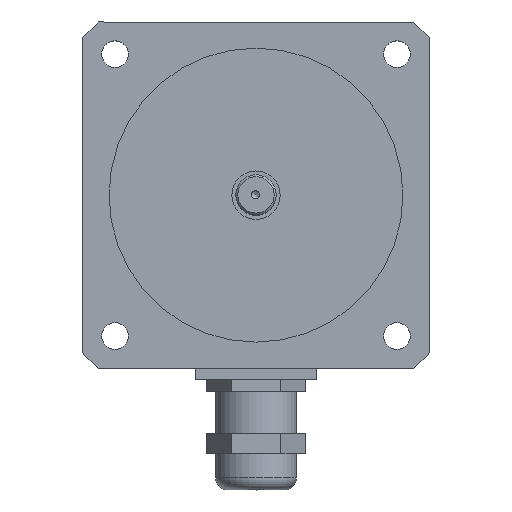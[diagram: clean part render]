
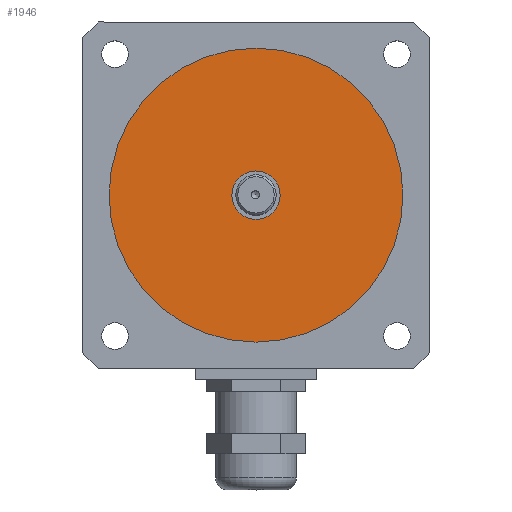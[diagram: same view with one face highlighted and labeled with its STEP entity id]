
A CAD part, top view. The second image highlights one B-rep face of the part: STEP entity #1946.
In plain terms, the highlighted planar face has unit normal (0, 0, 1).
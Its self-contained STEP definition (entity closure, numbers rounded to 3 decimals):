
#1904=CARTESIAN_POINT('',(169.033,142.287,6.997));
#1905=VERTEX_POINT('',#1904);
#1906=CARTESIAN_POINT('',(132.533,142.287,6.997));
#1907=DIRECTION('',(0.0,0.0,-1.0));
#1908=DIRECTION('',(-1.0,0.0,0.0));
#1909=AXIS2_PLACEMENT_3D('',#1906,#1907,#1908);
#1910=CIRCLE('',#1909,36.5);
#1911=EDGE_CURVE('',#1905,#1905,#1910,.T.);
#1927=CARTESIAN_POINT('',(132.533,142.287,6.997));
#1928=DIRECTION('',(0.0,0.0,-1.0));
#1929=DIRECTION('',(-1.0,0.0,0.0));
#1930=AXIS2_PLACEMENT_3D('',#1927,#1928,#1929);
#1931=PLANE('',#1930);
#1932=ORIENTED_EDGE('',*,*,#1911,.F.);
#1933=EDGE_LOOP('',(#1932));
#1934=FACE_OUTER_BOUND('',#1933,.T.);
#1935=CARTESIAN_POINT('',(138.534,142.287,6.997));
#1936=VERTEX_POINT('',#1935);
#1937=CARTESIAN_POINT('',(132.533,142.287,6.997));
#1938=DIRECTION('',(0.0,0.0,-1.0));
#1939=DIRECTION('',(-1.0,0.0,0.0));
#1940=AXIS2_PLACEMENT_3D('',#1937,#1938,#1939);
#1941=CIRCLE('',#1940,6.001);
#1942=EDGE_CURVE('',#1936,#1936,#1941,.T.);
#1943=ORIENTED_EDGE('',*,*,#1942,.T.);
#1944=EDGE_LOOP('',(#1943));
#1945=FACE_BOUND('',#1944,.T.);
#1946=ADVANCED_FACE('',(#1934,#1945),#1931,.F.);
